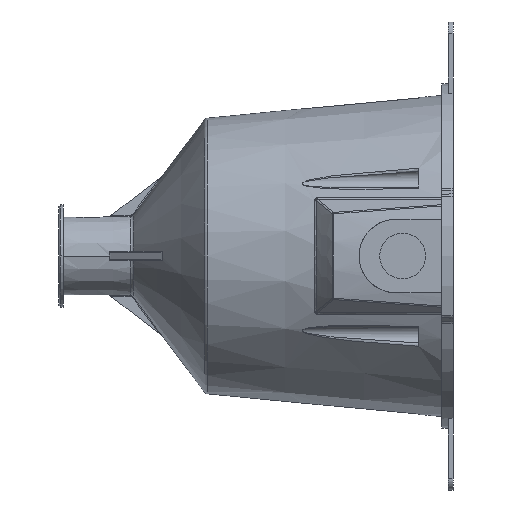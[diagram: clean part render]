
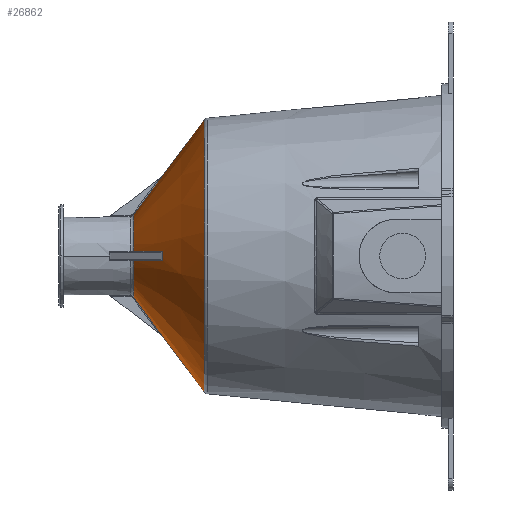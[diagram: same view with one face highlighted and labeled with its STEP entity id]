
A CAD part, left-side view. The second image highlights one B-rep face of the part: STEP entity #26862.
In plain terms, the highlighted conical face has half-angle 53.344 degrees and reference radius 38.675 mm.
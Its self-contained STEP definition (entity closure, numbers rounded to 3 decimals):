
#13378=CARTESIAN_POINT('',(0.,-13.395,0.));
#13379=DIRECTION('',(0.,-1.,0.));
#13380=DIRECTION('',(-0.998,0.,0.06));
#13381=AXIS2_PLACEMENT_3D('',#13378,#13379,#13380);
#13398=CARTESIAN_POINT('',(0.,-13.395,0.));
#13399=DIRECTION('',(0.,-1.,0.));
#13400=DIRECTION('',(-0.06,0.,-0.998));
#13401=AXIS2_PLACEMENT_3D('',#13398,#13399,#13400);
#13575=CARTESIAN_POINT('',(0.,-13.395,0.));
#13576=DIRECTION('',(0.,-1.,0.));
#13577=DIRECTION('',(0.,0.,1.));
#13578=AXIS2_PLACEMENT_3D('',#13575,#13576,#13577);
#13674=DIRECTION('',(0.,-0.597,
-0.802));
#13675=VECTOR('',#13674,30.277);
#13676=CARTESIAN_POINT('',(0.,-13.395,-35.));
#13677=LINE('',#13676,#13675);
#13683=DIRECTION('',(0.,0.597,-0.802));
#13684=VECTOR('',#13683,30.277);
#13685=CARTESIAN_POINT('',(0.,-31.471,
59.289));
#13686=LINE('',#13685,#13684);
#13881=CARTESIAN_POINT('',(-2.107,-13.395,
34.937));
#13882=CARTESIAN_POINT('',(-2.099,-12.555,
33.805));
#13883=CARTESIAN_POINT('',(-2.084,-10.954,
31.651));
#13884=CARTESIAN_POINT('',(-2.064,-8.803,
28.755));
#13885=CARTESIAN_POINT('',(-2.045,-6.878,
26.162));
#13886=CARTESIAN_POINT('',(-2.028,-5.14,
23.821));
#13887=CARTESIAN_POINT('',(-2.012,-3.531,
21.652));
#13888=CARTESIAN_POINT('',(-1.996,-2.056,
19.662));
#13889=CARTESIAN_POINT('',(-1.987,-1.193,
18.497));
#13890=CARTESIAN_POINT('',(-1.982,-0.789,
17.952));
#13892=CARTESIAN_POINT('',(0.,-31.471,0.));
#13893=DIRECTION('',(0.,1.,0.));
#13894=DIRECTION('',(0.,0.,-1.));
#13895=AXIS2_PLACEMENT_3D('',#13892,#13893,#13894);
#13897=CARTESIAN_POINT('',(-1.982,-0.789,
-17.952));
#13898=CARTESIAN_POINT('',(-1.988,-1.293,
-18.631));
#13899=CARTESIAN_POINT('',(-1.999,-2.353,
-20.062));
#13900=CARTESIAN_POINT('',(-2.017,-4.078,
-22.389));
#13901=CARTESIAN_POINT('',(-2.037,-6.015,
-25.));
#13902=CARTESIAN_POINT('',(-2.058,-8.169,
-27.901));
#13903=CARTESIAN_POINT('',(-2.081,-10.593,
-31.165));
#13904=CARTESIAN_POINT('',(-2.098,-12.427,
-33.633));
#13905=CARTESIAN_POINT('',(-2.107,-13.395,
-34.937));
#13907=CARTESIAN_POINT('',(0.,-0.789,0.));
#13908=DIRECTION('',(0.,1.,0.));
#13909=DIRECTION('',(-0.11,0.,-0.994));
#13910=AXIS2_PLACEMENT_3D('',#13907,#13908,#13909);
#13912=CARTESIAN_POINT('',(-34.937,-13.395,
-2.107));
#13913=CARTESIAN_POINT('',(-33.801,-12.552,
-2.099));
#13914=CARTESIAN_POINT('',(-31.642,-10.947,
-2.084));
#13915=CARTESIAN_POINT('',(-28.744,-8.795,
-2.064));
#13916=CARTESIAN_POINT('',(-26.163,-6.878,
-2.045));
#13917=CARTESIAN_POINT('',(-23.827,-5.144,
-2.028));
#13918=CARTESIAN_POINT('',(-21.658,-3.536,
-2.012));
#13919=CARTESIAN_POINT('',(-19.665,-2.058,
-1.996));
#13920=CARTESIAN_POINT('',(-18.498,-1.194,
-1.987));
#13921=CARTESIAN_POINT('',(-17.952,-0.789,
-1.982));
#13923=CARTESIAN_POINT('',(-17.952,-0.789,
1.982));
#13924=CARTESIAN_POINT('',(-18.635,-1.295,
1.988));
#13925=CARTESIAN_POINT('',(-20.074,-2.361,
1.999));
#13926=CARTESIAN_POINT('',(-22.417,-4.098,
2.017));
#13927=CARTESIAN_POINT('',(-25.051,-6.053,
2.037));
#13928=CARTESIAN_POINT('',(-27.98,-8.228,
2.058));
#13929=CARTESIAN_POINT('',(-31.245,-10.652,
2.082));
#13930=CARTESIAN_POINT('',(-33.666,-12.451,
2.098));
#13931=CARTESIAN_POINT('',(-34.937,-13.395,
2.107));
#13933=CARTESIAN_POINT('',(0.,-0.789,0.));
#13934=DIRECTION('',(0.,1.,0.));
#13935=DIRECTION('',(-0.994,0.,0.11));
#13936=AXIS2_PLACEMENT_3D('',#13933,#13934,#13935);
#13959=CARTESIAN_POINT('',(-1.982,-0.789,
17.952));
#24557=CARTESIAN_POINT('',(-17.952,-0.789,
-1.982));
#24684=CARTESIAN_POINT('',(0.,-31.471,-59.289));
#24685=CARTESIAN_POINT('',(0.,-31.471,59.289));
#24686=VERTEX_POINT('',#24684);
#24687=VERTEX_POINT('',#24685);
#25087=CARTESIAN_POINT('',(0.,-13.395,35.));
#25088=VERTEX_POINT('',#25087);
#25089=CARTESIAN_POINT('',(0.,-13.395,-35.));
#25090=VERTEX_POINT('',#25089);
#25104=VERTEX_POINT('',#13959);
#25105=VERTEX_POINT('',#13881);
#25109=VERTEX_POINT('',#13923);
#25110=VERTEX_POINT('',#13931);
#25120=VERTEX_POINT('',#24557);
#25121=VERTEX_POINT('',#13912);
#25125=VERTEX_POINT('',#13897);
#25126=VERTEX_POINT('',#13905);
#26837=CARTESIAN_POINT('',(0.,-16.13,0.));
#26838=DIRECTION('',(0.,-1.,0.));
#26839=DIRECTION('',(0.,0.,1.));
#26840=AXIS2_PLACEMENT_3D('',#26837,#26838,#26839);
#26841=CONICAL_SURFACE('',#26840,38.675,53.344);
#26843=ORIENTED_EDGE('',*,*,#26842,.F.);
#26844=ORIENTED_EDGE('',*,*,#26315,.F.);
#26845=ORIENTED_EDGE('',*,*,#26509,.F.);
#26847=ORIENTED_EDGE('',*,*,#26846,.F.);
#26848=ORIENTED_EDGE('',*,*,#26505,.F.);
#26849=ORIENTED_EDGE('',*,*,#26053,.F.);
#26851=ORIENTED_EDGE('',*,*,#26850,.F.);
#26853=ORIENTED_EDGE('',*,*,#26852,.T.);
#26855=ORIENTED_EDGE('',*,*,#26854,.F.);
#26856=ORIENTED_EDGE('',*,*,#26027,.F.);
#26857=ORIENTED_EDGE('',*,*,#26125,.F.);
#26859=ORIENTED_EDGE('',*,*,#26858,.T.);
#26860=EDGE_LOOP('',(#26843,#26844,#26845,#26847,#26848,#26849,#26851,#26853,
#26855,#26856,#26857,#26859));
#26861=FACE_OUTER_BOUND('',#26860,.F.);
#26862=ADVANCED_FACE('',(#26861),#26841,.T.);
#13382=CIRCLE('',#13381,35.);
#13402=CIRCLE('',#13401,35.);
#13579=CIRCLE('',#13578,35.);
#13891=B_SPLINE_CURVE_WITH_KNOTS('',3,(#13881,#13882,#13883,#13884,#13885,
#13886,#13887,#13888,#13889,#13890),.UNSPECIFIED.,.F.,.F.,(4,1,1,1,1,1,1,4),(
0.,0.143,0.286,0.429,0.571,
0.714,0.857,1.),.UNSPECIFIED.);
#13896=CIRCLE('',#13895,59.289);
#13906=B_SPLINE_CURVE_WITH_KNOTS('',3,(#13897,#13898,#13899,#13900,#13901,
#13902,#13903,#13904,#13905),.UNSPECIFIED.,.F.,.F.,(4,1,1,1,1,1,4),(0.,
0.167,0.333,0.5,0.667,0.833,
1.),.UNSPECIFIED.);
#13911=CIRCLE('',#13910,18.061);
#13922=B_SPLINE_CURVE_WITH_KNOTS('',3,(#13912,#13913,#13914,#13915,#13916,
#13917,#13918,#13919,#13920,#13921),.UNSPECIFIED.,.F.,.F.,(4,1,1,1,1,1,1,4),(
0.,0.143,0.286,0.429,0.571,
0.714,0.857,1.),.UNSPECIFIED.);
#13932=B_SPLINE_CURVE_WITH_KNOTS('',3,(#13923,#13924,#13925,#13926,#13927,
#13928,#13929,#13930,#13931),.UNSPECIFIED.,.F.,.F.,(4,1,1,1,1,1,4),(0.,
0.167,0.333,0.5,0.667,0.833,
1.),.UNSPECIFIED.);
#13937=CIRCLE('',#13936,18.061);
#26027=EDGE_CURVE('',#25110,#25121,#13382,.T.);
#26053=EDGE_CURVE('',#25126,#25090,#13402,.T.);
#26125=EDGE_CURVE('',#25109,#25110,#13932,.T.);
#26315=EDGE_CURVE('',#25088,#25105,#13579,.T.);
#26505=EDGE_CURVE('',#25090,#24686,#13677,.T.);
#26509=EDGE_CURVE('',#24687,#25088,#13686,.T.);
#26842=EDGE_CURVE('',#25105,#25104,#13891,.T.);
#26846=EDGE_CURVE('',#24686,#24687,#13896,.T.);
#26850=EDGE_CURVE('',#25125,#25126,#13906,.T.);
#26852=EDGE_CURVE('',#25125,#25120,#13911,.T.);
#26854=EDGE_CURVE('',#25121,#25120,#13922,.T.);
#26858=EDGE_CURVE('',#25109,#25104,#13937,.T.);
